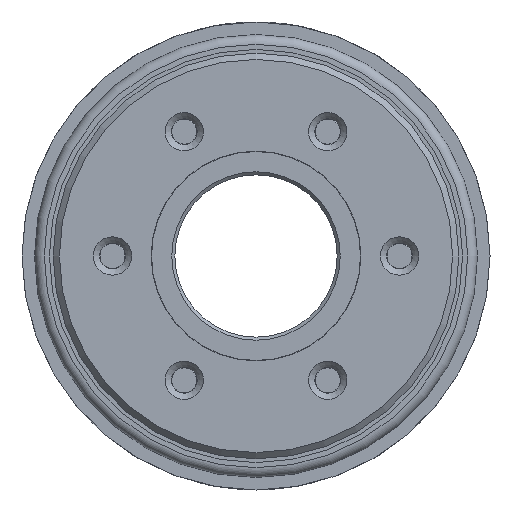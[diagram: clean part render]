
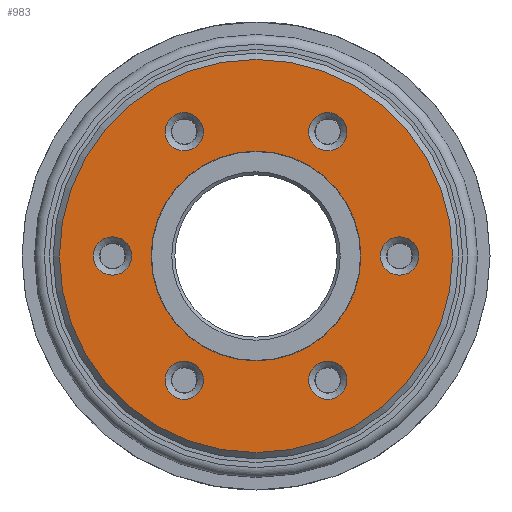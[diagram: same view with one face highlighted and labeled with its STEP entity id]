
A CAD part, left-side view. The second image highlights one B-rep face of the part: STEP entity #983.
In plain terms, the highlighted planar face has unit normal (-1, 0, 0).
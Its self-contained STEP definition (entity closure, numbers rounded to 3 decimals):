
#983 = ADVANCED_FACE( '', ( #2325, #2326, #2327, #2328, #2329, #2330, #2331, #2332 ), #2333, .T. );
#2325 = FACE_OUTER_BOUND( '', #4006, .T. );
#2326 = FACE_BOUND( '', #4007, .T. );
#2327 = FACE_BOUND( '', #4008, .T. );
#2328 = FACE_BOUND( '', #4009, .T. );
#2329 = FACE_BOUND( '', #4010, .T. );
#2330 = FACE_BOUND( '', #4011, .T. );
#2331 = FACE_BOUND( '', #4012, .T. );
#2332 = FACE_BOUND( '', #4013, .T. );
#2333 = PLANE( '', #4014 );
#4006 = EDGE_LOOP( '', ( #6671 ) );
#4007 = EDGE_LOOP( '', ( #6672 ) );
#4008 = EDGE_LOOP( '', ( #6673 ) );
#4009 = EDGE_LOOP( '', ( #6674 ) );
#4010 = EDGE_LOOP( '', ( #6675 ) );
#4011 = EDGE_LOOP( '', ( #6676 ) );
#4012 = EDGE_LOOP( '', ( #6677 ) );
#4013 = EDGE_LOOP( '', ( #6678 ) );
#4014 = AXIS2_PLACEMENT_3D( '', #6679, #6680, #6681 );
#6671 = ORIENTED_EDGE( '', *, *, #9078, .T. );
#6672 = ORIENTED_EDGE( '', *, *, #8200, .T. );
#6673 = ORIENTED_EDGE( '', *, *, #9079, .T. );
#6674 = ORIENTED_EDGE( '', *, *, #9080, .T. );
#6675 = ORIENTED_EDGE( '', *, *, #9081, .T. );
#6676 = ORIENTED_EDGE( '', *, *, #9082, .T. );
#6677 = ORIENTED_EDGE( '', *, *, #9083, .T. );
#6678 = ORIENTED_EDGE( '', *, *, #8937, .T. );
#6679 = CARTESIAN_POINT( '', ( -40.25, -16.8, 0. ) );
#6680 = DIRECTION( '', ( -1., 0., 0. ) );
#6681 = DIRECTION( '', ( 0., 1., 0. ) );
#8200 = EDGE_CURVE( '', #9470, #9470, #9471, .T. );
#8937 = EDGE_CURVE( '', #10643, #10643, #10644, .T. );
#9078 = EDGE_CURVE( '', #10827, #10827, #10828, .T. );
#9079 = EDGE_CURVE( '', #10829, #10829, #10830, .T. );
#9080 = EDGE_CURVE( '', #10831, #10831, #10832, .T. );
#9081 = EDGE_CURVE( '', #10833, #10833, #10834, .T. );
#9082 = EDGE_CURVE( '', #10835, #10835, #10836, .T. );
#9083 = EDGE_CURVE( '', #10837, #10837, #10838, .T. );
#9470 = VERTEX_POINT( '', #11300 );
#9471 = CIRCLE( '', #11301, 3.067 );
#10643 = VERTEX_POINT( '', #12751 );
#10644 = CIRCLE( '', #12752, 16.8 );
#10827 = VERTEX_POINT( '', #12972 );
#10828 = CIRCLE( '', #12973, 31.5 );
#10829 = VERTEX_POINT( '', #12974 );
#10830 = CIRCLE( '', #12975, 3.067 );
#10831 = VERTEX_POINT( '', #12976 );
#10832 = CIRCLE( '', #12977, 3.067 );
#10833 = VERTEX_POINT( '', #12978 );
#10834 = CIRCLE( '', #12979, 3.067 );
#10835 = VERTEX_POINT( '', #12980 );
#10836 = CIRCLE( '', #12981, 3.067 );
#10837 = VERTEX_POINT( '', #12982 );
#10838 = CIRCLE( '', #12983, 3.067 );
#11300 = CARTESIAN_POINT( '', ( -40.25, -14.567, 19.919 ) );
#11301 = AXIS2_PLACEMENT_3D( '', #13501, #13502, #13503 );
#12751 = CARTESIAN_POINT( '', ( -40.25, -16.8, 0. ) );
#12752 = AXIS2_PLACEMENT_3D( '', #14576, #14577, #14578 );
#12972 = CARTESIAN_POINT( '', ( -40.25, -31.5, 0. ) );
#12973 = AXIS2_PLACEMENT_3D( '', #14757, #14758, #14759 );
#12974 = CARTESIAN_POINT( '', ( -40.25, 8.433, 19.919 ) );
#12975 = AXIS2_PLACEMENT_3D( '', #14760, #14761, #14762 );
#12976 = CARTESIAN_POINT( '', ( -40.25, 19.933, 0. ) );
#12977 = AXIS2_PLACEMENT_3D( '', #14763, #14764, #14765 );
#12978 = CARTESIAN_POINT( '', ( -40.25, 8.433, -19.919 ) );
#12979 = AXIS2_PLACEMENT_3D( '', #14766, #14767, #14768 );
#12980 = CARTESIAN_POINT( '', ( -40.25, -14.567, -19.919 ) );
#12981 = AXIS2_PLACEMENT_3D( '', #14769, #14770, #14771 );
#12982 = CARTESIAN_POINT( '', ( -40.25, -26.067, 0. ) );
#12983 = AXIS2_PLACEMENT_3D( '', #14772, #14773, #14774 );
#13501 = CARTESIAN_POINT( '', ( -40.25, -11.5, 19.919 ) );
#13502 = DIRECTION( '', ( 1., 0., 0. ) );
#13503 = DIRECTION( '', ( 0., -1., 0. ) );
#14576 = CARTESIAN_POINT( '', ( -40.25, 0., 0. ) );
#14577 = DIRECTION( '', ( 1., 0., 0. ) );
#14578 = DIRECTION( '', ( 0., -1., 0. ) );
#14757 = CARTESIAN_POINT( '', ( -40.25, 0., 0. ) );
#14758 = DIRECTION( '', ( -1., 0., 0. ) );
#14759 = DIRECTION( '', ( 0., -1., 0. ) );
#14760 = CARTESIAN_POINT( '', ( -40.25, 11.5, 19.919 ) );
#14761 = DIRECTION( '', ( 1., 0., 0. ) );
#14762 = DIRECTION( '', ( 0., -1., 0. ) );
#14763 = CARTESIAN_POINT( '', ( -40.25, 23., 0. ) );
#14764 = DIRECTION( '', ( 1., 0., 0. ) );
#14765 = DIRECTION( '', ( 0., -1., 0. ) );
#14766 = CARTESIAN_POINT( '', ( -40.25, 11.5, -19.919 ) );
#14767 = DIRECTION( '', ( 1., 0., 0. ) );
#14768 = DIRECTION( '', ( 0., -1., 0. ) );
#14769 = CARTESIAN_POINT( '', ( -40.25, -11.5, -19.919 ) );
#14770 = DIRECTION( '', ( 1., 0., 0. ) );
#14771 = DIRECTION( '', ( 0., -1., 0. ) );
#14772 = CARTESIAN_POINT( '', ( -40.25, -23., 0. ) );
#14773 = DIRECTION( '', ( 1., 0., 0. ) );
#14774 = DIRECTION( '', ( 0., -1., 0. ) );
